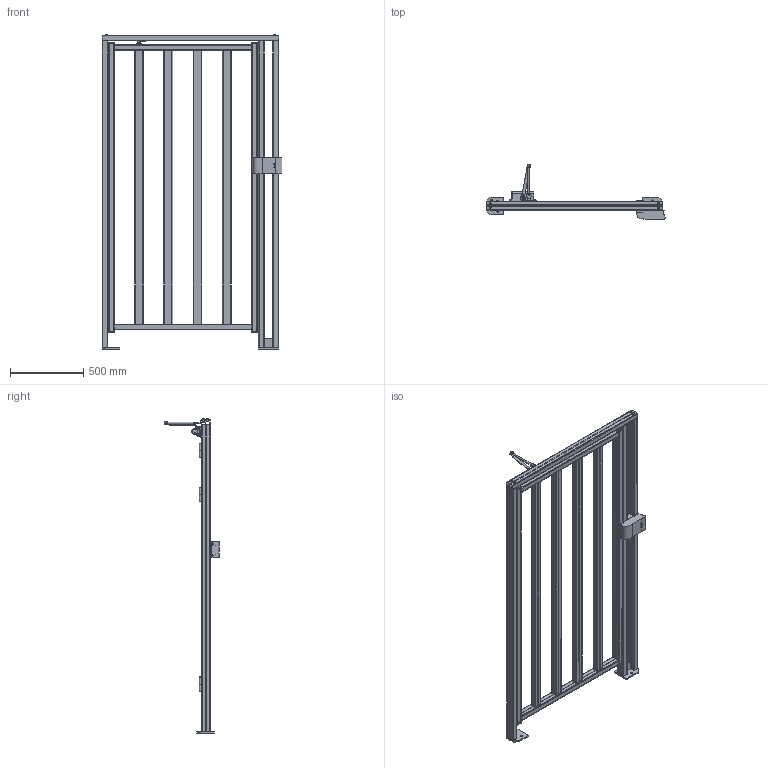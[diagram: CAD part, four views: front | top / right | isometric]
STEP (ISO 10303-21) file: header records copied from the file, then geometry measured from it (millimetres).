
FILE_DESCRIPTION(/* description */ ('Unknown'),/* implementation_level */ '2;1');
FILE_NAME(/* name */ 'WHD-15',/* time_stamp */ '2021-11-25T15:38:01+03:00',/* author */ ('Unknown'),/* organization */ ('Unknown'),/* preprocessor_version */ 'ST-DEVELOPER v18.1',/* originating_system */ 'Solid Edge',/* authorisation */ 'Unknown');
FILE_SCHEMA (('CONFIG_CONTROL_DESIGN'));
Length unit declared in the file: millimetre
Products named in the file (1): WHD-15
Bounding box: 1232 x 379.15 x 2151.5 mm (x, y, z)
Volume: 15898845.9 mm3; surface area: 9209161.6 mm2
Topology: 57 solids, 57 shells, 1794 faces, 4433 edges, 2855 vertices
Faces by surface type: plane 874, cylinder 637, torus 178, cone 78, bspline 15, sphere 12
Full cylindrical faces by diameter (mm): 3 x8, 4 x8, 4.2 x11, 5 x6, 5.2 x4, 5.5 x4, 6 x8, 6.5 x2, 7 x4, 8 x19, 8.2 x6, 8.5 x4, 10 x19, 10.5 x4, 11 x8, 12 x15, 12.33 x1, 13 x5, 14 x2, 14.5 x4, 18.098 x1, 25 x1, 25.5 x1, 32 x2, 37 x1, 38 x1
Entity records: 56035 total; most frequent: CARTESIAN_POINT 10129, DIRECTION 9253, ORIENTED_EDGE 8250, EDGE_CURVE 4125, AXIS2_PLACEMENT_3D 3434, VERTEX_POINT 2811, LINE 2385, VECTOR 2385
